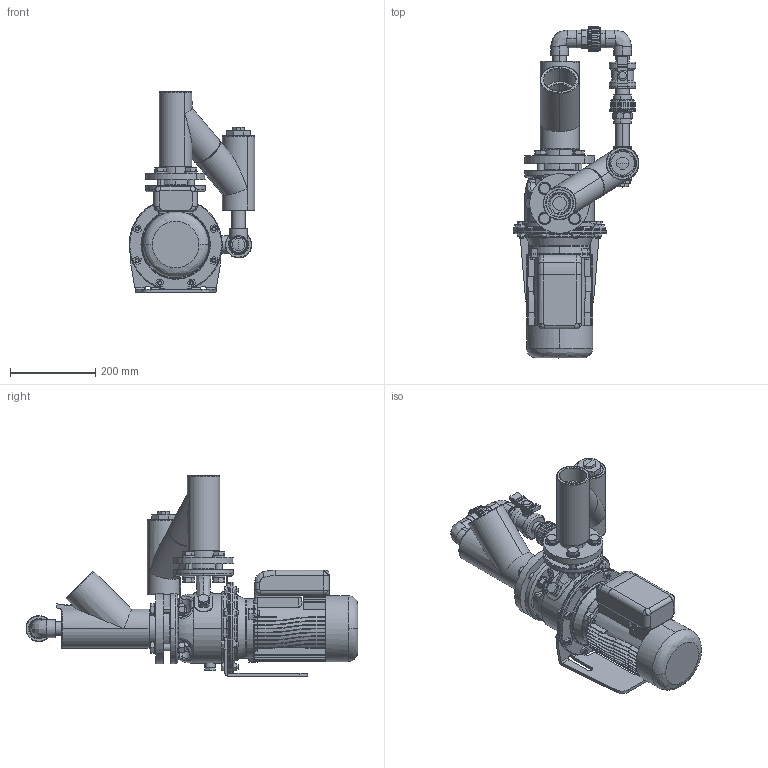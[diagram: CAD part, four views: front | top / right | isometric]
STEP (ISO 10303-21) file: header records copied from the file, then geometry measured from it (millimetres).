
FILE_DESCRIPTION (( 'STEP AP203' ), '1' );
FILE_NAME ('Lowara SHE 32-125 z.a.z handbed. by-pass .STEP', '2011-04-05T09:15:11', ( '' ), ( '' ), 'SwSTEP 2.0', 'SolidWorks 2010', '' );
FILE_SCHEMA (( 'CONFIG_CONTROL_DESIGN' ));
Length unit declared in the file: millimetre
Products named in the file (1): Lowara SHE 32-125 z.a.z handbed. by-pass 
Bounding box: 295.97 x 780.41 x 471.36 mm (x, y, z)
Volume: 12452265 mm3; surface area: 1700685.7 mm2
Topology: 61 solids, 63 shells, 2566 faces, 6528 edges, 4070 vertices
Faces by surface type: plane 977, cylinder 821, cone 380, bspline 365, torus 23
Entity records: 101381 total; most frequent: CARTESIAN_POINT 42317, ORIENTED_EDGE 12834, DIRECTION 11794, EDGE_CURVE 6417, AXIS2_PLACEMENT_3D 4645, VERTEX_POINT 4070, EDGE_LOOP 2821, ADVANCED_FACE 2566
